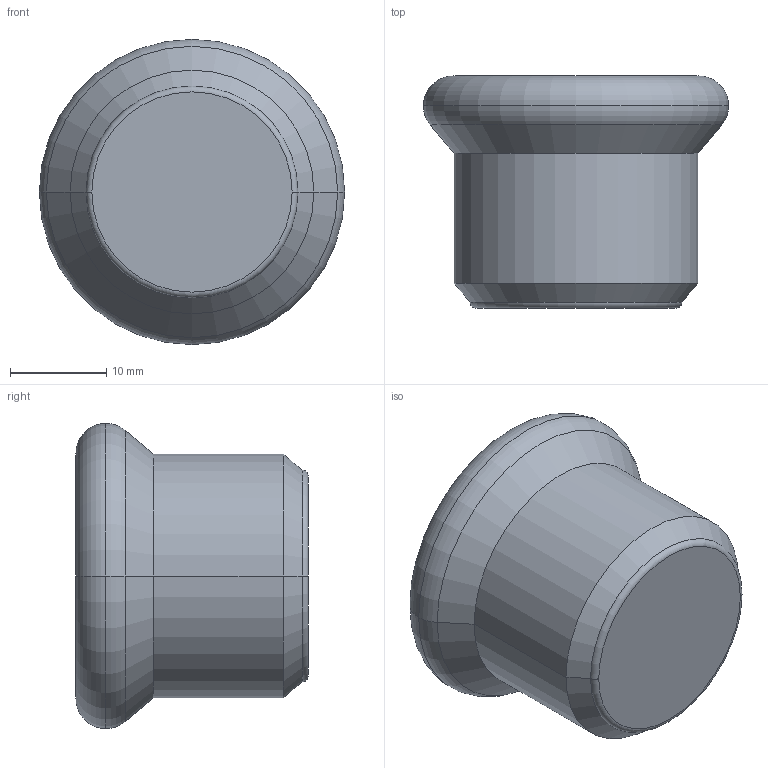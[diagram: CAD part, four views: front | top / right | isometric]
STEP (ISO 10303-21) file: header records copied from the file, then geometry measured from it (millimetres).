
FILE_DESCRIPTION(('OneSpaceDesigner STEP Export'),'2;1');
FILE_NAME('R2729 22.stp','2010-06-10T13:27:44',(''),(''),'OneSpace Designer STEP processor for AP214 (Solid Model)','OneSpace Modeling 15.00A 14-Mar-2007 (C) CoCreate Software GmbH','');
FILE_SCHEMA(('AUTOMOTIVE_DESIGN { 1 0 10303 214 1 1 1 1 }'));
Length unit declared in the file: millimetre
Products named in the file (2): R2729_22
Assembly tree (1 placements, depth 2):
  R2729_22
    R2729_22
Bounding box: 31.7 x 24.1 x 31.7 mm (x, y, z)
Volume: 4635.2 mm3; surface area: 5317.6 mm2
Topology: 1 solids, 1 shells, 59 faces, 143 edges, 92 vertices
Faces by surface type: plane 32, cylinder 17, torus 6, cone 4
Entity records: 1595 total; most frequent: ORIENTED_EDGE 286, CARTESIAN_POINT 257, DIRECTION 243, EDGE_CURVE 143, VERTEX_POINT 92, VECTOR 87, LINE 87, AXIS2_PLACEMENT_3D 78
